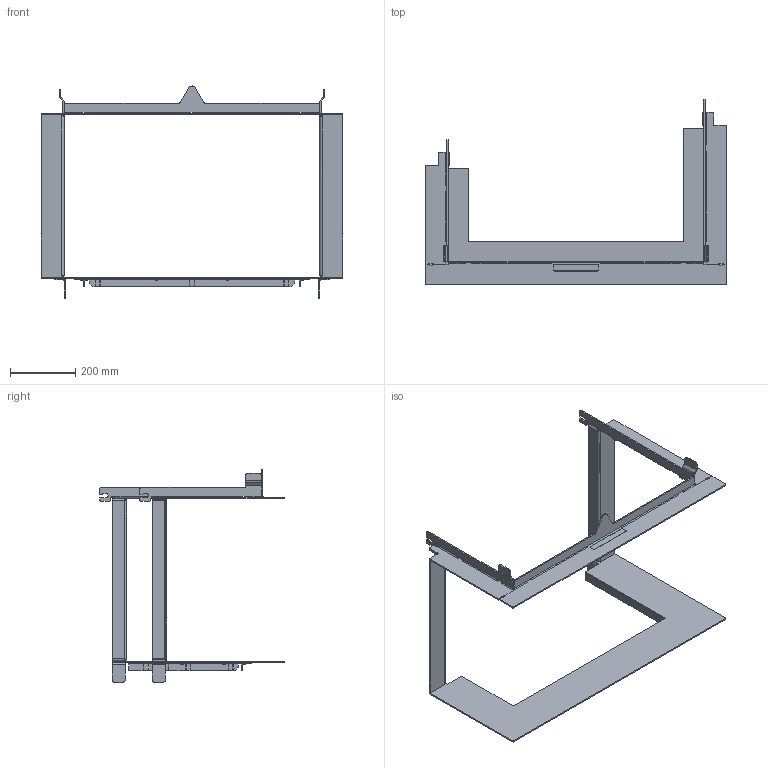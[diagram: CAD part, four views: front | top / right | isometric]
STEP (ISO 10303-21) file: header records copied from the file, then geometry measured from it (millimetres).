
FILE_DESCRIPTION(/* description */ (''),/* implementation_level */ '2;1');
FILE_NAME(/* name */ 'C:\ADSK_DM_WS\CAD_3D\06 Spezialprojekte\Blendrahmen\Zeichnungen\Blendrahmen RAS 50x80x42 Rechts 5+8-seitig CAD Planung defriten 2023-00799 230317.stp',/* time_stamp */ '2023-03-17T09:32:52+01:00',/* author */ ('CPI'),/* organization */ (''),/* preprocessor_version */ 'ST-DEVELOPER v18.1',/* originating_system */ 'Autodesk Inventor 2022',/* authorisation */ '');
FILE_SCHEMA (('AUTOMOTIVE_DESIGN { 1 0 10303 214 3 1 1 }'));
Length unit declared in the file: millimetre
Products named in the file (3): 2023-01161; 2023-01158; 2023-01156
Assembly tree (2 placements, depth 2):
  2023-01161
    2023-01158
    2023-01156
Bounding box: 926 x 568 x 652.14 mm (x, y, z)
Volume: 2104917 mm3; surface area: 1102605.1 mm2
Topology: 4 solids, 4 shells, 819 faces, 2212 edges, 1400 vertices
Faces by surface type: plane 412, cylinder 277, cone 96, bspline 34
Full cylindrical faces by diameter (mm): 10 x8
Entity records: 26684 total; most frequent: CARTESIAN_POINT 6146, ORIENTED_EDGE 4424, DIRECTION 4148, EDGE_CURVE 2212, AXIS2_PLACEMENT_3D 1422, VERTEX_POINT 1400, LINE 1304, VECTOR 1304
